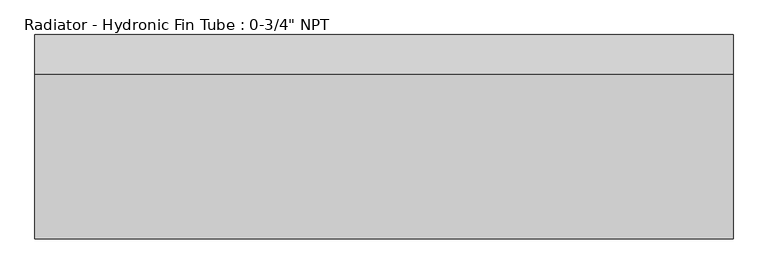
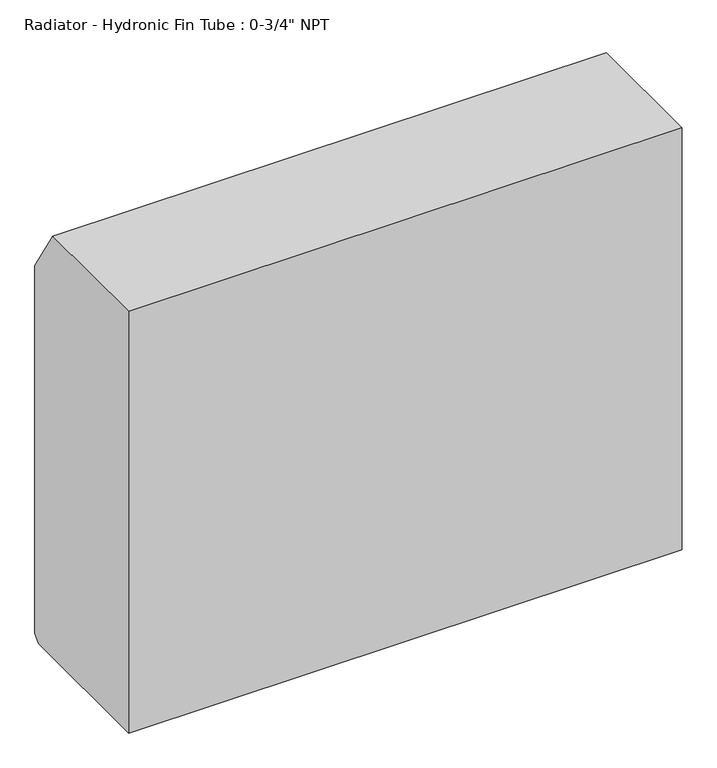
"""IFC4 building model written with IfcOpenShell, lengths in millimetres: proxy geometry."""

from ifc_helpers import new_model, si_unit, frame, origin, place, context, project, spatial, polyline, outline, extrude, source, transform, mapped, element, save


def proxy_9773a5b9(model_context):
    return source(origin(), model_context, "Body", "SweptSolid", [
        extrude(outline(polyline([(488.95, 304.8), (196.85, 304.8), (196.85, 1143.0), (442.9125, 1143.0), (501.65, 1048.6279261), (501.65, 318.3779261), (488.95, 304.8)])), frame((-914.4, 0.0, 0.0), z_axis=(1.0, 0.0, 0.0), x_axis=(0.0, 1.0, 0.0)), (0.0, 0.0, 1.0), 1041.4),
    ])


if __name__ == "__main__":
    model = new_model("IFC4")
    model_context = context("Model", 3, world=origin())
    ifc_project = project(units=[si_unit("LENGTHUNIT", "METRE", prefix="MILLI")], contexts=[model_context])
    site = spatial("IfcSite", under=ifc_project)
    building = spatial("IfcBuilding", under=site)
    placement = place(None, origin())
    proxy_shape = proxy_9773a5b9(model_context)
    element("IfcBuildingElementProxy", 1, Name="Radiator - Hydronic Fin Tube : 0-3/4\" NPT", ObjectType="Radiator - Hydronic Fin Tube : 0-3/4\" NPT", at=placement, inside=building, context=model_context, shape_type="MappedRepresentation", body=[
        mapped(proxy_shape, transform((0.0, 0.0, 0.0), x_axis=(1.0, 0.0, 0.0), y_axis=(0.0, 1.0, 0.0), z_axis=(0.0, 0.0, 1.0))),
    ])
    save(model, "model.ifc")
